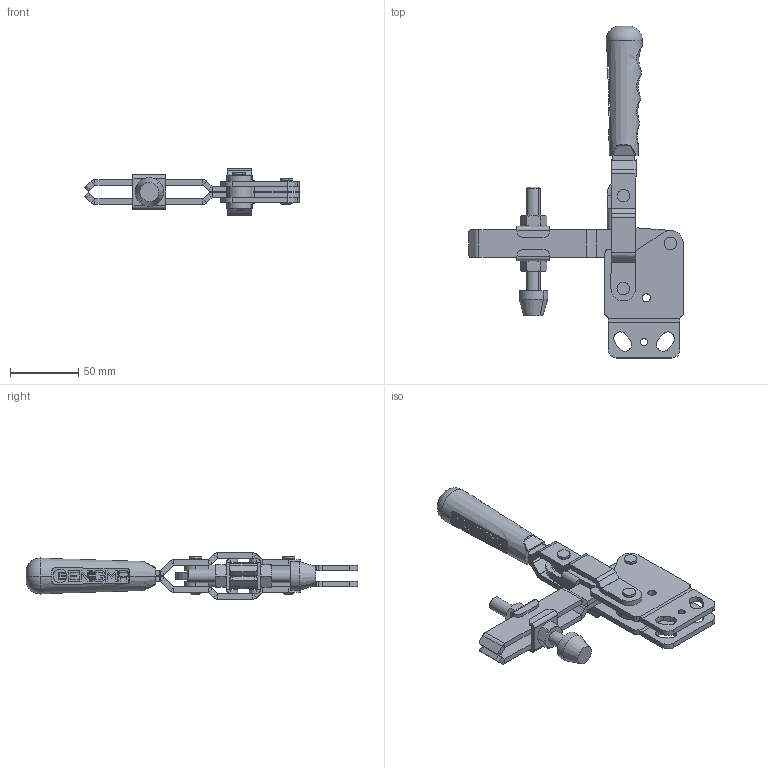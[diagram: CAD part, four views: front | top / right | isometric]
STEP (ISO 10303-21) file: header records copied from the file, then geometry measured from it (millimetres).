
FILE_DESCRIPTION (( 'STEP AP214' ), '1' );
FILE_NAME ('1105-D.STEP', '2022-05-31T13:01:42', ( '' ), ( '' ), 'SwSTEP 2.0', 'SolidWorks 2020', '' );
FILE_SCHEMA (( 'AUTOMOTIVE_DESIGN' ));
Length unit declared in the file: millimetre
Products named in the file (15): 1105_Y-D_GÖVDE_2022; 6x19,5_PERﾇﾝN; 1105_BASKI_KOLU_2022; 6x27,5_PERﾇﾝN; 1105-D; 1105_MAFSAL_2022; 10x6x14_BURÇ; 10x6x8_BURÇ; Baský M10; M10 Somun; M10 Aský; C95_Yeni_Tutamak; Ø18,5xØ10,5x8_YÜZÜK; 1105_HAREKET_KOLU_2022; Aynalama1105_Y-D_GÖVDE_2022
Assembly tree (22 placements, depth 2):
  1105-D
    1105_Y-D_GÖVDE_2022
    Ø18,5xØ10,5x8_YÜZÜK
    1105_BASKI_KOLU_2022  x2
    1105_HAREKET_KOLU_2022  x2
    1105_MAFSAL_2022
    Aynalama1105_Y-D_GÖVDE_2022
    10x6x14_BURÇ  x2
    10x6x8_BURÇ  x2
    6x19,5_PERﾇﾝN  x2
    6x27,5_PERﾇﾝN  x2
    M10 Aský  x2
    Baský M10
    M10 Somun  x2
    C95_Yeni_Tutamak
Bounding box: 157.13 x 242.95 x 34 mm (x, y, z)
Volume: 146909.2 mm3; surface area: 85899.8 mm2
Topology: 22 solids, 22 shells, 1135 faces, 2761 edges, 1730 vertices
Faces by surface type: plane 749, cylinder 266, cone 74, torus 36, bspline 8, sphere 2
Entity records: 22454 total; most frequent: CARTESIAN_POINT 4487, DIRECTION 3649, ORIENTED_EDGE 3508, EDGE_CURVE 1754, AXIS2_PLACEMENT_3D 1240, VECTOR 1169, LINE 1169, VERTEX_POINT 1106
